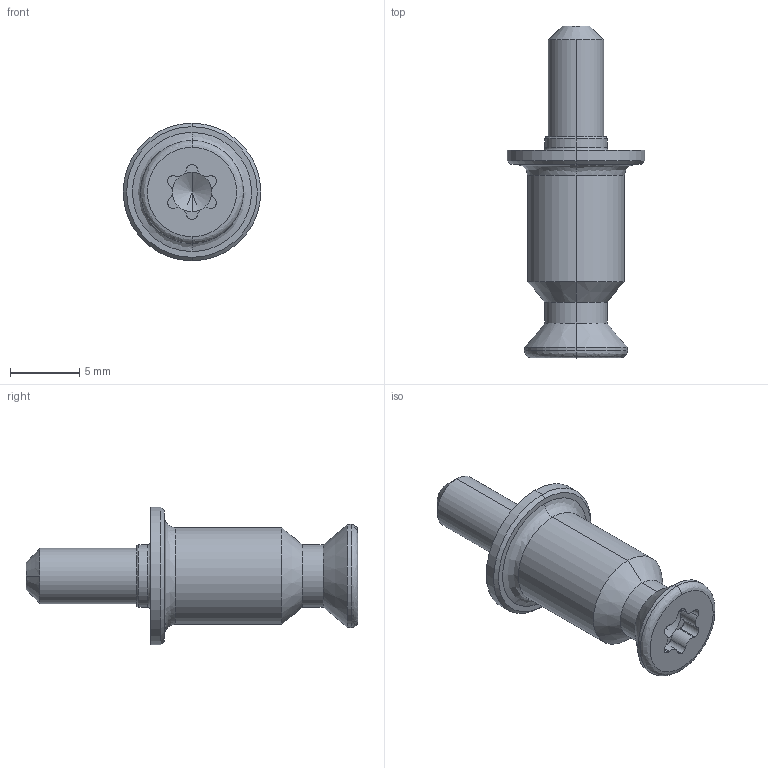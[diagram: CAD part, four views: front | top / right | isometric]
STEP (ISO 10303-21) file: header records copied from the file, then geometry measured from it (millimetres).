
FILE_DESCRIPTION (( 'STEP AP203' ), '1' );
FILE_NAME ('QS022-EF-M4.STEP', '2017-06-07T07:21:19', ( '' ), ( '' ), 'SwSTEP 2.0', 'SolidWorks 2017', '' );
FILE_SCHEMA (( 'CONFIG_CONTROL_DESIGN' ));
Length unit declared in the file: millimetre
Products named in the file (1): QS022-EF-M4
Bounding box: 9.95 x 24 x 9.95 mm (x, y, z)
Volume: 649.4 mm3; surface area: 849.7 mm2
Topology: 2 solids, 2 shells, 75 faces, 177 edges, 105 vertices
Faces by surface type: cylinder 31, cone 18, plane 18, bspline 8
Entity records: 2394 total; most frequent: CARTESIAN_POINT 600, DIRECTION 395, ORIENTED_EDGE 342, EDGE_CURVE 171, AXIS2_PLACEMENT_3D 164, VERTEX_POINT 105, CIRCLE 96, EDGE_LOOP 80
